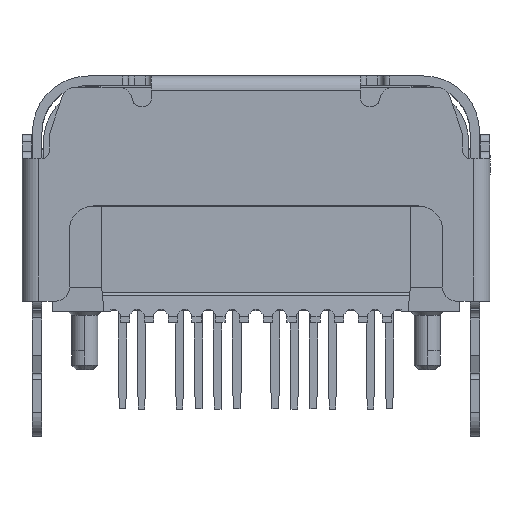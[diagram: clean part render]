
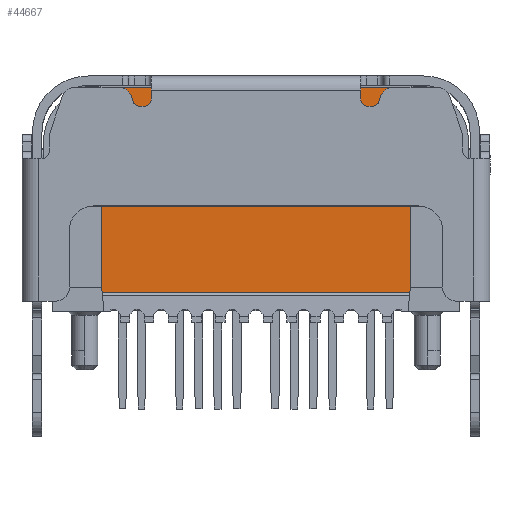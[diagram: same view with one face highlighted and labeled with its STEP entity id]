
A CAD part, top view. The second image highlights one B-rep face of the part: STEP entity #44667.
In plain terms, the highlighted planar face has unit normal (0, 0.009, 1) as drawn and (0, 0.009, -1) by its records, which use the part's own axes.
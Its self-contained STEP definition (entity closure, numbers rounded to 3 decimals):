
#10516 = CARTESIAN_POINT ( 'NONE',  ( 3.245, -2.8, -0.028 ) ) ;
#11031 = LINE ( 'NONE', #22255, #81436 ) ;
#11227 = CARTESIAN_POINT ( 'NONE',  ( -3.234, -2.91, -0.029 ) ) ;
#12579 = FACE_OUTER_BOUND ( 'NONE', #120290, .T. ) ;
#13216 = CARTESIAN_POINT ( 'NONE',  ( 0., -0.755, -0.01 ) ) ;
#13883 = CARTESIAN_POINT ( 'NONE',  ( -3.234, -2.91, -0.029 ) ) ;
#14869 = CARTESIAN_POINT ( 'NONE',  ( 3.245, -2.91, -0.029 ) ) ;
#17329 = CARTESIAN_POINT ( 'NONE',  ( 3.245, -2.91, -0.029 ) ) ;
#20236 = CARTESIAN_POINT ( 'NONE',  ( 3.245, 1.4, 0.009 ) ) ;
#22255 = CARTESIAN_POINT ( 'NONE',  ( -3.245, -2.91, -0.029 ) ) ;
#23132 = DIRECTION ( 'NONE',  ( 0., -0.009, 1. ) ) ;
#24240 = ORIENTED_EDGE ( 'NONE', *, *, #67767, .T. ) ;
#26897 = B_SPLINE_CURVE_WITH_KNOTS ( 'NONE', 3,
 ( #20236, #119406, #100208, #100859 ),
 .UNSPECIFIED., .F., .F.,
 ( 4, 4 ),
 ( 0., 1. ),
 .UNSPECIFIED. ) ;
#30292 = VERTEX_POINT ( 'NONE', #11227 ) ;
#31324 = B_SPLINE_CURVE_WITH_KNOTS ( 'NONE', 3,
 ( #108014, #100052, #40563, #80216 ),
 .UNSPECIFIED., .F., .F.,
 ( 4, 4 ),
 ( 0., 1. ),
 .UNSPECIFIED. ) ;
#39552 = VERTEX_POINT ( 'NONE', #130554 ) ;
#40563 = CARTESIAN_POINT ( 'NONE',  ( -3.245, -2.873, -0.029 ) ) ;
#42722 = DIRECTION ( 'NONE',  ( 1., 0., 0. ) ) ;
#44667 = ADVANCED_FACE ( 'NONE', ( #12579 ), #73354, .F. ) ;
#45498 = CARTESIAN_POINT ( 'NONE',  ( -3.245, -2.8, -0.028 ) ) ;
#45678 = VECTOR ( 'NONE', #115659, 1000. ) ;
#51227 = CARTESIAN_POINT ( 'NONE',  ( -3.245, -2.91, -0.029 ) ) ;
#53901 = CARTESIAN_POINT ( 'NONE',  ( -3.245, -2.8, -0.028 ) ) ;
#57645 = EDGE_CURVE ( 'NONE', #114278, #58738, #73533, .T. ) ;
#58738 = VERTEX_POINT ( 'NONE', #81090 ) ;
#61281 = LINE ( 'NONE', #83045, #93245 ) ;
#64086 = CARTESIAN_POINT ( 'NONE',  ( 3.234, -2.91, -0.029 ) ) ;
#65479 = EDGE_CURVE ( 'NONE', #58738, #39552, #61281, .T. ) ;
#66031 = B_SPLINE_CURVE_WITH_KNOTS ( 'NONE', 3,
 ( #17329, #127731, #94695, #66909 ),
 .UNSPECIFIED., .F., .F.,
 ( 4, 4 ),
 ( 0., 1. ),
 .UNSPECIFIED. ) ;
#66909 = CARTESIAN_POINT ( 'NONE',  ( 3.245, -2.8, -0.028 ) ) ;
#67442 = DIRECTION ( 'NONE',  ( 1., 0., 0. ) ) ;
#67767 = EDGE_CURVE ( 'NONE', #39552, #68363, #26897, .T. ) ;
#67899 = VERTEX_POINT ( 'NONE', #14869 ) ;
#68079 = EDGE_CURVE ( 'NONE', #114278, #128311, #31324, .T. ) ;
#68363 = VERTEX_POINT ( 'NONE', #10516 ) ;
#73354 = PLANE ( 'NONE',  #109920 ) ;
#73533 = B_SPLINE_CURVE_WITH_KNOTS ( 'NONE', 3,
 ( #53901, #102857, #84304, #94217 ),
 .UNSPECIFIED., .F., .F.,
 ( 4, 4 ),
 ( 0., 1. ),
 .UNSPECIFIED. ) ;
#77328 = CARTESIAN_POINT ( 'NONE',  ( 3.234, -2.91, -0.029 ) ) ;
#78380 = VECTOR ( 'NONE', #67442, 1000. ) ;
#78778 = ORIENTED_EDGE ( 'NONE', *, *, #68079, .F. ) ;
#80216 = CARTESIAN_POINT ( 'NONE',  ( -3.245, -2.91, -0.029 ) ) ;
#81090 = CARTESIAN_POINT ( 'NONE',  ( -3.245, 1.4, 0.009 ) ) ;
#81436 = VECTOR ( 'NONE', #42722, 1000. ) ;
#83045 = CARTESIAN_POINT ( 'NONE',  ( -3.245, 1.4, 0.009 ) ) ;
#84304 = CARTESIAN_POINT ( 'NONE',  ( -3.245, 0., -0.003 ) ) ;
#85243 = LINE ( 'NONE', #13883, #45678 ) ;
#85297 = ORIENTED_EDGE ( 'NONE', *, *, #95315, .F. ) ;
#92684 = EDGE_CURVE ( 'NONE', #128311, #30292, #11031, .T. ) ;
#93245 = VECTOR ( 'NONE', #123383, 1000. ) ;
#93835 = DIRECTION ( 'NONE',  ( -1., 0., 0. ) ) ;
#94217 = CARTESIAN_POINT ( 'NONE',  ( -3.245, 1.4, 0.009 ) ) ;
#94695 = CARTESIAN_POINT ( 'NONE',  ( 3.245, -2.837, -0.029 ) ) ;
#95315 = EDGE_CURVE ( 'NONE', #30292, #116822, #85243, .T. ) ;
#95805 = ORIENTED_EDGE ( 'NONE', *, *, #65479, .T. ) ;
#96594 = EDGE_CURVE ( 'NONE', #67899, #68363, #66031, .T. ) ;
#97173 = LINE ( 'NONE', #77328, #78380 ) ;
#100052 = CARTESIAN_POINT ( 'NONE',  ( -3.245, -2.837, -0.029 ) ) ;
#100208 = CARTESIAN_POINT ( 'NONE',  ( 3.245, -1.4, -0.016 ) ) ;
#100859 = CARTESIAN_POINT ( 'NONE',  ( 3.245, -2.8, -0.028 ) ) ;
#101798 = EDGE_CURVE ( 'NONE', #116822, #67899, #97173, .T. ) ;
#102857 = CARTESIAN_POINT ( 'NONE',  ( -3.245, -1.4, -0.016 ) ) ;
#108014 = CARTESIAN_POINT ( 'NONE',  ( -3.245, -2.8, -0.028 ) ) ;
#109920 = AXIS2_PLACEMENT_3D ( 'NONE', #13216, #23132, #93835 ) ;
#114278 = VERTEX_POINT ( 'NONE', #45498 ) ;
#115659 = DIRECTION ( 'NONE',  ( 1., 0., 0. ) ) ;
#116822 = VERTEX_POINT ( 'NONE', #64086 ) ;
#118276 = ORIENTED_EDGE ( 'NONE', *, *, #101798, .F. ) ;
#119406 = CARTESIAN_POINT ( 'NONE',  ( 3.245, 0., -0.003 ) ) ;
#120290 = EDGE_LOOP ( 'NONE', ( #95805, #24240, #124335, #118276, #85297, #129346, #78778, #121119 ) ) ;
#121119 = ORIENTED_EDGE ( 'NONE', *, *, #57645, .T. ) ;
#123383 = DIRECTION ( 'NONE',  ( 1., 0., 0. ) ) ;
#124335 = ORIENTED_EDGE ( 'NONE', *, *, #96594, .F. ) ;
#127731 = CARTESIAN_POINT ( 'NONE',  ( 3.245, -2.873, -0.029 ) ) ;
#128311 = VERTEX_POINT ( 'NONE', #51227 ) ;
#129346 = ORIENTED_EDGE ( 'NONE', *, *, #92684, .F. ) ;
#130554 = CARTESIAN_POINT ( 'NONE',  ( 3.245, 1.4, 0.009 ) ) ;
